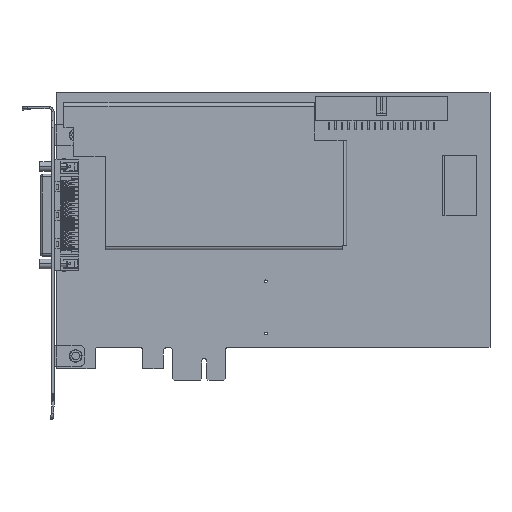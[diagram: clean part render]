
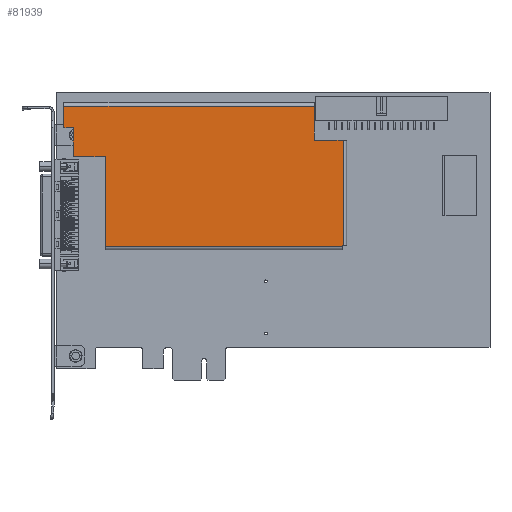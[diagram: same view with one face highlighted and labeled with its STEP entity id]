
A CAD part, top view. The second image highlights one B-rep face of the part: STEP entity #81939.
In plain terms, the highlighted planar face has unit normal (0, 0, 1).
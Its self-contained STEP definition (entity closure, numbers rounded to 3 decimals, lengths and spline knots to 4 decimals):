
#29469=DIRECTION('',(0.,1.,0.));
#29470=VECTOR('',#29469,0.01);
#29471=CARTESIAN_POINT('',(4.0603,1.665,0.377));
#29472=LINE('',#29471,#29470);
#29473=DIRECTION('',(0.,1.,0.));
#29474=VECTOR('',#29473,1.37);
#29475=CARTESIAN_POINT('',(0.4503,1.6651,0.377));
#29476=LINE('',#29475,#29474);
#29477=DIRECTION('',(1.,0.,0.));
#29478=VECTOR('',#29477,0.487);
#29479=CARTESIAN_POINT('',(-0.0367,3.0351,0.377));
#29480=LINE('',#29479,#29478);
#29481=DIRECTION('',(0.,1.,0.));
#29482=VECTOR('',#29481,0.441);
#29483=CARTESIAN_POINT('',(-0.0367,3.0351,0.377));
#29484=LINE('',#29483,#29482);
#29485=DIRECTION('',(1.,0.,0.));
#29486=VECTOR('',#29485,0.143);
#29487=CARTESIAN_POINT('',(-0.1797,3.4761,0.377));
#29488=LINE('',#29487,#29486);
#29489=DIRECTION('',(0.,-1.,0.));
#29490=VECTOR('',#29489,0.324);
#29491=CARTESIAN_POINT('',(-0.1797,3.8001,0.377));
#29492=LINE('',#29491,#29490);
#29493=DIRECTION('',(0.,-1.,0.));
#29494=VECTOR('',#29493,0.517);
#29495=CARTESIAN_POINT('',(3.6303,3.8,0.377));
#29496=LINE('',#29495,#29494);
#29497=DIRECTION('',(1.,0.,0.));
#29498=VECTOR('',#29497,0.44);
#29499=CARTESIAN_POINT('',(3.6303,3.283,0.377));
#29500=LINE('',#29499,#29498);
#29501=DIRECTION('',(-1.,0.,0.));
#29502=VECTOR('',#29501,0.01);
#29503=CARTESIAN_POINT('',(4.0703,1.675,0.377));
#29504=LINE('',#29503,#29502);
#29514=DIRECTION('',(1.,0.,0.));
#29515=VECTOR('',#29514,3.61);
#29516=CARTESIAN_POINT('',(0.4503,1.6651,0.377));
#29517=LINE('',#29516,#29515);
#29714=DIRECTION('',(0.,1.,0.));
#29715=VECTOR('',#29714,1.608);
#29716=CARTESIAN_POINT('',(4.0703,1.675,0.377));
#29717=LINE('',#29716,#29715);
#29744=DIRECTION('',(-1.,0.,0.));
#29745=VECTOR('',#29744,3.81);
#29746=CARTESIAN_POINT('',(3.6303,3.8,0.377));
#29747=LINE('',#29746,#29745);
#32743=CARTESIAN_POINT('',(3.6303,3.283,0.377));
#32745=VERTEX_POINT('',#32743);
#32799=CARTESIAN_POINT('',(-0.1797,3.8001,0.377));
#32800=VERTEX_POINT('',#32799);
#32801=CARTESIAN_POINT('',(3.6303,3.8,0.377));
#32802=VERTEX_POINT('',#32801);
#32807=CARTESIAN_POINT('',(4.0703,3.283,0.377));
#32808=VERTEX_POINT('',#32807);
#32809=CARTESIAN_POINT('',(4.0703,1.675,0.377));
#32810=VERTEX_POINT('',#32809);
#32817=CARTESIAN_POINT('',(4.0603,1.665,0.377));
#32818=VERTEX_POINT('',#32817);
#32819=CARTESIAN_POINT('',(0.4503,1.6651,0.377));
#32820=VERTEX_POINT('',#32819);
#32821=CARTESIAN_POINT('',(0.4503,3.0351,0.377));
#32822=VERTEX_POINT('',#32821);
#32823=CARTESIAN_POINT('',(4.0603,1.675,0.377));
#32825=VERTEX_POINT('',#32823);
#32827=CARTESIAN_POINT('',(-0.0367,3.0351,0.377));
#32828=CARTESIAN_POINT('',(-0.0367,3.4761,0.377));
#32829=VERTEX_POINT('',#32827);
#32830=VERTEX_POINT('',#32828);
#32835=CARTESIAN_POINT('',(-0.1797,3.4761,0.377));
#32836=VERTEX_POINT('',#32835);
#81909=CARTESIAN_POINT('',(2.8003,2.31,0.377));
#81910=DIRECTION('',(0.,0.,1.));
#81911=DIRECTION('',(-1.,0.,0.));
#81912=AXIS2_PLACEMENT_3D('',#81909,#81910,#81911);
#81913=PLANE('',#81912);
#81914=ORIENTED_EDGE('',*,*,#81899,.F.);
#81916=ORIENTED_EDGE('',*,*,#81915,.F.);
#81918=ORIENTED_EDGE('',*,*,#81917,.T.);
#81920=ORIENTED_EDGE('',*,*,#81919,.F.);
#81922=ORIENTED_EDGE('',*,*,#81921,.T.);
#81924=ORIENTED_EDGE('',*,*,#81923,.F.);
#81926=ORIENTED_EDGE('',*,*,#81925,.F.);
#81928=ORIENTED_EDGE('',*,*,#81927,.F.);
#81930=ORIENTED_EDGE('',*,*,#81929,.T.);
#81932=ORIENTED_EDGE('',*,*,#81931,.T.);
#81934=ORIENTED_EDGE('',*,*,#81933,.F.);
#81936=ORIENTED_EDGE('',*,*,#81935,.T.);
#81937=EDGE_LOOP('',(#81914,#81916,#81918,#81920,#81922,#81924,#81926,#81928,
#81930,#81932,#81934,#81936));
#81938=FACE_OUTER_BOUND('',#81937,.F.);
#81939=ADVANCED_FACE('',(#81938),#81913,.T.);
#81899=EDGE_CURVE('',#32818,#32825,#29472,.T.);
#81915=EDGE_CURVE('',#32820,#32818,#29517,.T.);
#81917=EDGE_CURVE('',#32820,#32822,#29476,.T.);
#81919=EDGE_CURVE('',#32829,#32822,#29480,.T.);
#81921=EDGE_CURVE('',#32829,#32830,#29484,.T.);
#81923=EDGE_CURVE('',#32836,#32830,#29488,.T.);
#81925=EDGE_CURVE('',#32800,#32836,#29492,.T.);
#81927=EDGE_CURVE('',#32802,#32800,#29747,.T.);
#81929=EDGE_CURVE('',#32802,#32745,#29496,.T.);
#81931=EDGE_CURVE('',#32745,#32808,#29500,.T.);
#81933=EDGE_CURVE('',#32810,#32808,#29717,.T.);
#81935=EDGE_CURVE('',#32810,#32825,#29504,.T.);
